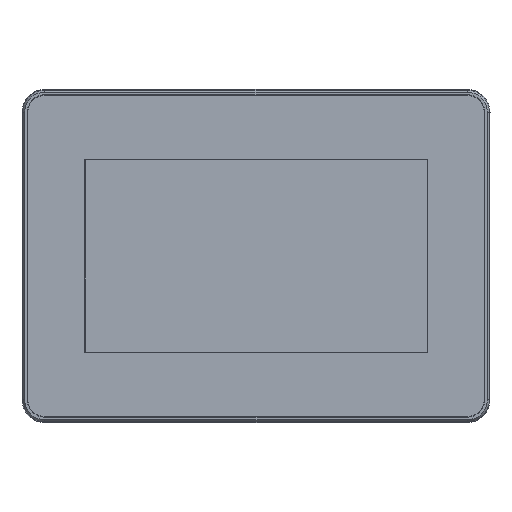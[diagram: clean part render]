
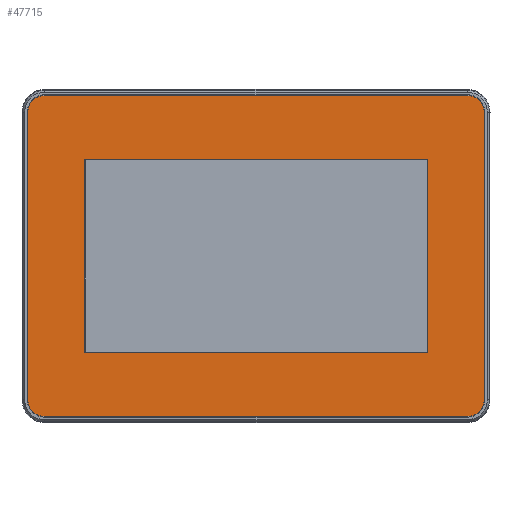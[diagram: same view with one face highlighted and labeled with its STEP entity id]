
A CAD part, top view. The second image highlights one B-rep face of the part: STEP entity #47715.
In plain terms, the highlighted planar face has unit normal (0, 0, 1).
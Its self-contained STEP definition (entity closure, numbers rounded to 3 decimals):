
#1925 = VERTEX_POINT ( 'NONE', #36569 ) ;
#2622 = CIRCLE ( 'NONE', #72776, 7.5 ) ;
#3230 = CARTESIAN_POINT ( 'NONE',  ( -148.634, -29.849, 50.077 ) ) ;
#5043 = VERTEX_POINT ( 'NONE', #15390 ) ;
#6195 = CIRCLE ( 'NONE', #51134, 7.5 ) ;
#6631 = AXIS2_PLACEMENT_3D ( 'NONE', #11310, #96039, #97646 ) ;
#8268 = LINE ( 'NONE', #3230, #98247 ) ;
#9233 = VERTEX_POINT ( 'NONE', #102283 ) ;
#9414 = DIRECTION ( 'NONE',  ( 0., 0., 1. ) ) ;
#11092 = DIRECTION ( 'NONE',  ( 0., 0., 1. ) ) ;
#11310 = CARTESIAN_POINT ( 'NONE',  ( -166.741, -51.446, 50.077 ) ) ;
#12368 = EDGE_CURVE ( 'NONE', #100207, #71526, #114949, .T. ) ;
#12809 = CARTESIAN_POINT ( 'NONE',  ( -148.634, -29.849, 50.077 ) ) ;
#12869 = DIRECTION ( 'NONE',  ( 1., 0., 0. ) ) ;
#12956 = CARTESIAN_POINT ( 'NONE',  ( 24.573, -58.946, 50.077 ) ) ;
#13262 = ORIENTED_EDGE ( 'NONE', *, *, #64608, .T. ) ;
#13620 = ORIENTED_EDGE ( 'NONE', *, *, #102544, .T. ) ;
#13804 = PLANE ( 'NONE',  #66539 ) ;
#13873 = EDGE_CURVE ( 'NONE', #103996, #100207, #105344, .T. ) ;
#14632 = FACE_OUTER_BOUND ( 'NONE', #62105, .T. ) ;
#15390 = CARTESIAN_POINT ( 'NONE',  ( -174.241, 78.668, 50.077 ) ) ;
#16563 = DIRECTION ( 'NONE',  ( -1., 0., 0. ) ) ;
#17246 = ORIENTED_EDGE ( 'NONE', *, *, #49731, .F. ) ;
#19078 = DIRECTION ( 'NONE',  ( 1., 0., 0. ) ) ;
#20519 = ORIENTED_EDGE ( 'NONE', *, *, #30169, .T. ) ;
#21129 = CARTESIAN_POINT ( 'NONE',  ( -174.241, -51.446, 50.077 ) ) ;
#25481 = ORIENTED_EDGE ( 'NONE', *, *, #13873, .F. ) ;
#26434 = CIRCLE ( 'NONE', #115382, 7.5 ) ;
#28928 = CARTESIAN_POINT ( 'NONE',  ( 32.073, -51.446, 50.077 ) ) ;
#30169 = EDGE_CURVE ( 'NONE', #34386, #81766, #55218, .T. ) ;
#32393 = VECTOR ( 'NONE', #40898, 1000. ) ;
#34187 = EDGE_CURVE ( 'NONE', #57801, #1925, #52758, .T. ) ;
#34386 = VERTEX_POINT ( 'NONE', #21129 ) ;
#35590 = ORIENTED_EDGE ( 'NONE', *, *, #12368, .F. ) ;
#36569 = CARTESIAN_POINT ( 'NONE',  ( -166.741, 86.168, 50.077 ) ) ;
#38876 = CARTESIAN_POINT ( 'NONE',  ( 24.573, 78.668, 50.077 ) ) ;
#40264 = CARTESIAN_POINT ( 'NONE',  ( -148.634, 57.071, 50.077 ) ) ;
#40898 = DIRECTION ( 'NONE',  ( 0., -1., 0. ) ) ;
#41680 = ORIENTED_EDGE ( 'NONE', *, *, #95064, .T. ) ;
#42883 = CARTESIAN_POINT ( 'NONE',  ( -166.741, -58.946, 50.077 ) ) ;
#43025 = ORIENTED_EDGE ( 'NONE', *, *, #34187, .T. ) ;
#47558 = CARTESIAN_POINT ( 'NONE',  ( 6.466, -29.849, 50.077 ) ) ;
#47613 = VECTOR ( 'NONE', #56740, 1000. ) ;
#47715 = ADVANCED_FACE ( 'NONE', ( #92753, #14632 ), #13804, .T. ) ;
#48575 = CARTESIAN_POINT ( 'NONE',  ( 6.466, 57.071, 50.077 ) ) ;
#49731 = EDGE_CURVE ( 'NONE', #71526, #62102, #107448, .T. ) ;
#50191 = DIRECTION ( 'NONE',  ( 0., -1., 0. ) ) ;
#50564 = VECTOR ( 'NONE', #50191, 1000. ) ;
#50593 = ORIENTED_EDGE ( 'NONE', *, *, #64931, .T. ) ;
#51134 = AXIS2_PLACEMENT_3D ( 'NONE', #38876, #11092, #19078 ) ;
#51509 = EDGE_LOOP ( 'NONE', ( #25481, #102919, #17246, #35590 ) ) ;
#52758 = LINE ( 'NONE', #121690, #111093 ) ;
#53040 = VECTOR ( 'NONE', #80256, 1000. ) ;
#54078 = VERTEX_POINT ( 'NONE', #12956 ) ;
#55218 = CIRCLE ( 'NONE', #6631, 7.5 ) ;
#56455 = CARTESIAN_POINT ( 'NONE',  ( 24.573, -51.446, 50.077 ) ) ;
#56740 = DIRECTION ( 'NONE',  ( -1., 0., 0. ) ) ;
#57801 = VERTEX_POINT ( 'NONE', #96047 ) ;
#60946 = CARTESIAN_POINT ( 'NONE',  ( -174.241, 78.668, 50.077 ) ) ;
#61817 = VECTOR ( 'NONE', #78374, 1000. ) ;
#61967 = CARTESIAN_POINT ( 'NONE',  ( 6.466, -29.849, 50.077 ) ) ;
#62102 = VERTEX_POINT ( 'NONE', #12809 ) ;
#62105 = EDGE_LOOP ( 'NONE', ( #20519, #13620, #41680, #13262, #50593, #43025, #112735, #118525 ) ) ;
#64608 = EDGE_CURVE ( 'NONE', #95718, #9233, #115703, .T. ) ;
#64931 = EDGE_CURVE ( 'NONE', #9233, #57801, #6195, .T. ) ;
#66539 = AXIS2_PLACEMENT_3D ( 'NONE', #108075, #90570, #70493 ) ;
#67371 = EDGE_CURVE ( 'NONE', #1925, #5043, #2622, .T. ) ;
#70493 = DIRECTION ( 'NONE',  ( 1., 0., 0. ) ) ;
#71526 = VERTEX_POINT ( 'NONE', #40264 ) ;
#72776 = AXIS2_PLACEMENT_3D ( 'NONE', #113919, #114302, #113495 ) ;
#76597 = DIRECTION ( 'NONE',  ( 1., 0., 0. ) ) ;
#78335 = CARTESIAN_POINT ( 'NONE',  ( -148.634, 57.071, 50.077 ) ) ;
#78374 = DIRECTION ( 'NONE',  ( 0., 1., 0. ) ) ;
#80256 = DIRECTION ( 'NONE',  ( 1., 0., 0. ) ) ;
#81291 = DIRECTION ( 'NONE',  ( 0., 1., 0. ) ) ;
#81766 = VERTEX_POINT ( 'NONE', #42883 ) ;
#88848 = EDGE_CURVE ( 'NONE', #5043, #34386, #99784, .T. ) ;
#90570 = DIRECTION ( 'NONE',  ( 0., 0., 1. ) ) ;
#92753 = FACE_BOUND ( 'NONE', #51509, .T. ) ;
#95064 = EDGE_CURVE ( 'NONE', #54078, #95718, #26434, .T. ) ;
#95718 = VERTEX_POINT ( 'NONE', #109438 ) ;
#96039 = DIRECTION ( 'NONE',  ( 0., 0., 1. ) ) ;
#96047 = CARTESIAN_POINT ( 'NONE',  ( 24.573, 86.168, 50.077 ) ) ;
#97646 = DIRECTION ( 'NONE',  ( 1., 0., 0. ) ) ;
#98247 = VECTOR ( 'NONE', #12869, 1000. ) ;
#99784 = LINE ( 'NONE', #60946, #32393 ) ;
#99856 = CARTESIAN_POINT ( 'NONE',  ( -166.741, -58.946, 50.077 ) ) ;
#100207 = VERTEX_POINT ( 'NONE', #48575 ) ;
#102283 = CARTESIAN_POINT ( 'NONE',  ( 32.073, 78.668, 50.077 ) ) ;
#102544 = EDGE_CURVE ( 'NONE', #81766, #54078, #108495, .T. ) ;
#102919 = ORIENTED_EDGE ( 'NONE', *, *, #107689, .F. ) ;
#103996 = VERTEX_POINT ( 'NONE', #47558 ) ;
#105344 = LINE ( 'NONE', #61967, #121761 ) ;
#107448 = LINE ( 'NONE', #78335, #50564 ) ;
#107689 = EDGE_CURVE ( 'NONE', #62102, #103996, #8268, .T. ) ;
#108075 = CARTESIAN_POINT ( 'NONE',  ( -166.741, -51.446, 50.077 ) ) ;
#108495 = LINE ( 'NONE', #99856, #53040 ) ;
#109438 = CARTESIAN_POINT ( 'NONE',  ( 32.073, -51.446, 50.077 ) ) ;
#111093 = VECTOR ( 'NONE', #16563, 1000. ) ;
#112735 = ORIENTED_EDGE ( 'NONE', *, *, #67371, .T. ) ;
#113495 = DIRECTION ( 'NONE',  ( 1., 0., 0. ) ) ;
#113625 = CARTESIAN_POINT ( 'NONE',  ( 6.466, 57.071, 50.077 ) ) ;
#113919 = CARTESIAN_POINT ( 'NONE',  ( -166.741, 78.668, 50.077 ) ) ;
#114302 = DIRECTION ( 'NONE',  ( 0., 0., 1. ) ) ;
#114949 = LINE ( 'NONE', #113625, #47613 ) ;
#115382 = AXIS2_PLACEMENT_3D ( 'NONE', #56455, #9414, #76597 ) ;
#115703 = LINE ( 'NONE', #28928, #61817 ) ;
#118525 = ORIENTED_EDGE ( 'NONE', *, *, #88848, .T. ) ;
#121690 = CARTESIAN_POINT ( 'NONE',  ( 24.573, 86.168, 50.077 ) ) ;
#121761 = VECTOR ( 'NONE', #81291, 1000. ) ;
